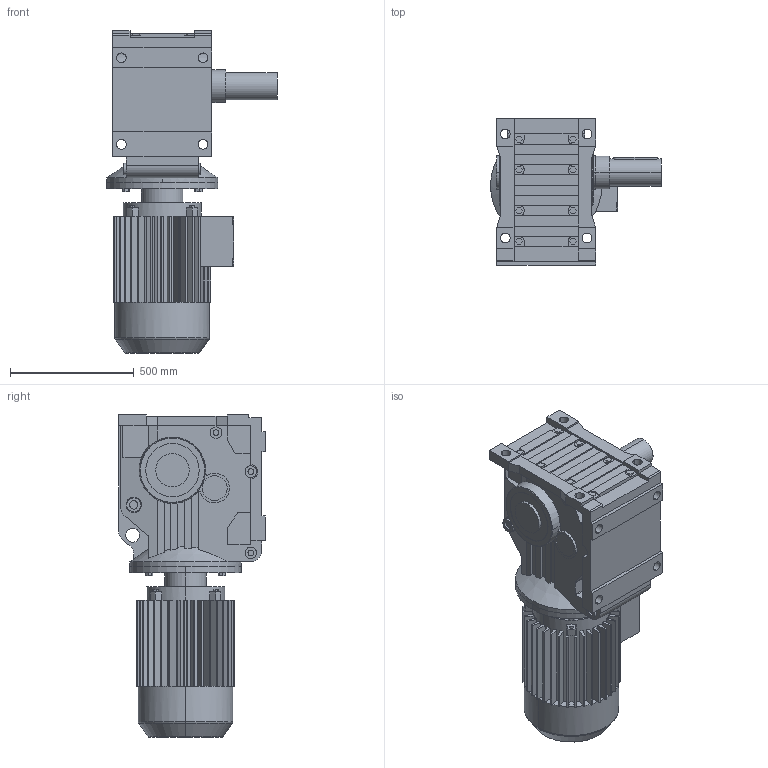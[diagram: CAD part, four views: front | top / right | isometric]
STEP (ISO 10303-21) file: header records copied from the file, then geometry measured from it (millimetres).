
FILE_DESCRIPTION(('Open CASCADE Model'),'2;1');
FILE_NAME('Open CASCADE Shape Model','2021-05-26T14:12:05',('Author'),( 'Open CASCADE'),'Open CASCADE STEP processor 6.3','Open CASCADE 6.3' ,'Unknown');
FILE_SCHEMA(('AUTOMOTIVE_DESIGN_CC2 { 1 2 10303 214 -1 1 5 4 }'));
Length unit declared in the file: millimetre
Products named in the file (4): 1_K127DV225-A; K37‵157_127.step; 萇儂_450-DV225-690-846-394-289.step; す瑩妗陑粣K_127.step
Assembly tree (3 placements, depth 2):
  1_K127DV225-A
    K37‵157_127.step
    萇儂_450-DV225-690-846-394-289.step
    す瑩妗陑粣K_127.step
Bounding box: 691 x 592 x 1305 mm (x, y, z)
Volume: 174498908.6 mm3; surface area: 4495131.8 mm2
Topology: 3 solids, 3 shells, 834 faces, 2199 edges, 1428 vertices
Faces by surface type: plane 582, cylinder 230, cone 14, torus 8
Entity records: 57532 total; most frequent: CARTESIAN_POINT 15731, DIRECTION 7207, ORIENTED_EDGE 4394, PCURVE 4394, DEFINITIONAL_REPRESENTATION 4394, LINE 3929, VECTOR 3929, EDGE_CURVE 2197
